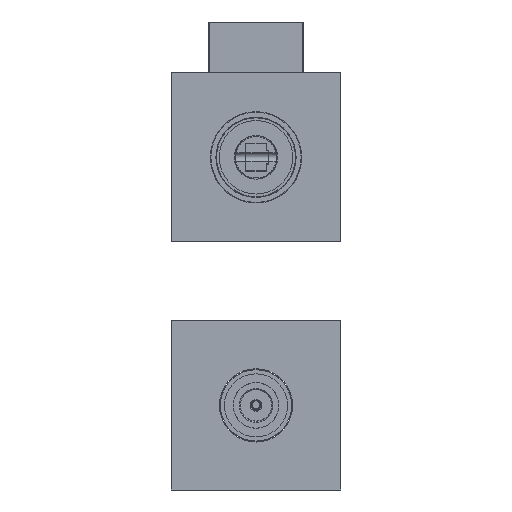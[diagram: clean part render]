
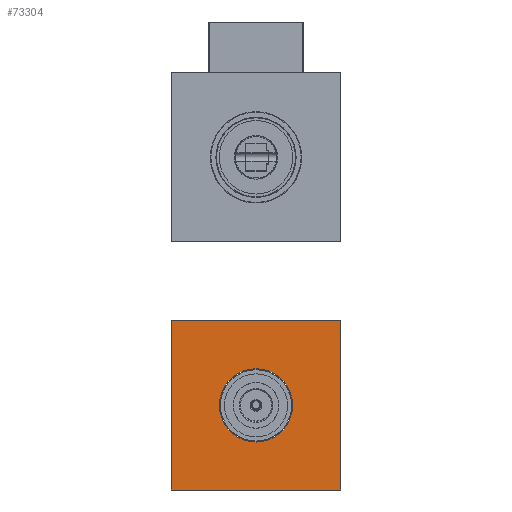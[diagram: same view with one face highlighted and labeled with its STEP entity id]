
A CAD part, front view. The second image highlights one B-rep face of the part: STEP entity #73304.
In plain terms, the highlighted planar face has unit normal (0, -1, 0).
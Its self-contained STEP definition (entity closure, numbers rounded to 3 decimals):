
#73183=DIRECTION('',(1.,0.,0.));
#73184=VECTOR('',#73183,75.);
#73185=CARTESIAN_POINT('',(-37.5,80.,-140.));
#73186=LINE('',#73185,#73184);
#73187=DIRECTION('',(0.,0.,-1.));
#73188=VECTOR('',#73187,75.);
#73189=CARTESIAN_POINT('',(37.5,80.,-140.));
#73190=LINE('',#73189,#73188);
#73191=DIRECTION('',(-1.,0.,0.));
#73192=VECTOR('',#73191,75.);
#73193=CARTESIAN_POINT('',(37.5,80.,-215.));
#73194=LINE('',#73193,#73192);
#73195=DIRECTION('',(0.,0.,1.));
#73196=VECTOR('',#73195,75.);
#73197=CARTESIAN_POINT('',(-37.5,80.,-215.));
#73198=LINE('',#73197,#73196);
#73199=CARTESIAN_POINT('',(0.,80.,-177.5));
#73200=DIRECTION('',(0.,1.,0.));
#73201=DIRECTION('',(1.,0.,0.));
#73202=AXIS2_PLACEMENT_3D('',#73199,#73200,#73201);
#73204=CARTESIAN_POINT('',(0.,80.,-177.5));
#73205=DIRECTION('',(0.,1.,0.));
#73206=DIRECTION('',(-1.,0.,0.));
#73207=AXIS2_PLACEMENT_3D('',#73204,#73205,#73206);
#73259=CARTESIAN_POINT('',(16.25,80.,-177.5));
#73260=CARTESIAN_POINT('',(-16.25,80.,-177.5));
#73261=VERTEX_POINT('',#73259);
#73262=VERTEX_POINT('',#73260);
#73267=CARTESIAN_POINT('',(-37.5,80.,-140.));
#73268=CARTESIAN_POINT('',(37.5,80.,-140.));
#73269=VERTEX_POINT('',#73267);
#73270=VERTEX_POINT('',#73268);
#73271=CARTESIAN_POINT('',(37.5,80.,-215.));
#73272=VERTEX_POINT('',#73271);
#73273=CARTESIAN_POINT('',(-37.5,80.,-215.));
#73274=VERTEX_POINT('',#73273);
#73283=CARTESIAN_POINT('',(0.,80.,-177.5));
#73284=DIRECTION('',(0.,1.,0.));
#73285=DIRECTION('',(1.,0.,0.));
#73286=AXIS2_PLACEMENT_3D('',#73283,#73284,#73285);
#73287=PLANE('',#73286);
#73289=ORIENTED_EDGE('',*,*,#73288,.T.);
#73291=ORIENTED_EDGE('',*,*,#73290,.T.);
#73293=ORIENTED_EDGE('',*,*,#73292,.T.);
#73295=ORIENTED_EDGE('',*,*,#73294,.T.);
#73296=EDGE_LOOP('',(#73289,#73291,#73293,#73295));
#73297=FACE_OUTER_BOUND('',#73296,.F.);
#73299=ORIENTED_EDGE('',*,*,#73298,.F.);
#73301=ORIENTED_EDGE('',*,*,#73300,.F.);
#73302=EDGE_LOOP('',(#73299,#73301));
#73303=FACE_BOUND('',#73302,.F.);
#73304=ADVANCED_FACE('',(#73297,#73303),#73287,.F.);
#73203=CIRCLE('',#73202,16.25);
#73208=CIRCLE('',#73207,16.25);
#73288=EDGE_CURVE('',#73269,#73270,#73186,.T.);
#73290=EDGE_CURVE('',#73270,#73272,#73190,.T.);
#73292=EDGE_CURVE('',#73272,#73274,#73194,.T.);
#73294=EDGE_CURVE('',#73274,#73269,#73198,.T.);
#73298=EDGE_CURVE('',#73261,#73262,#73203,.T.);
#73300=EDGE_CURVE('',#73262,#73261,#73208,.T.);
